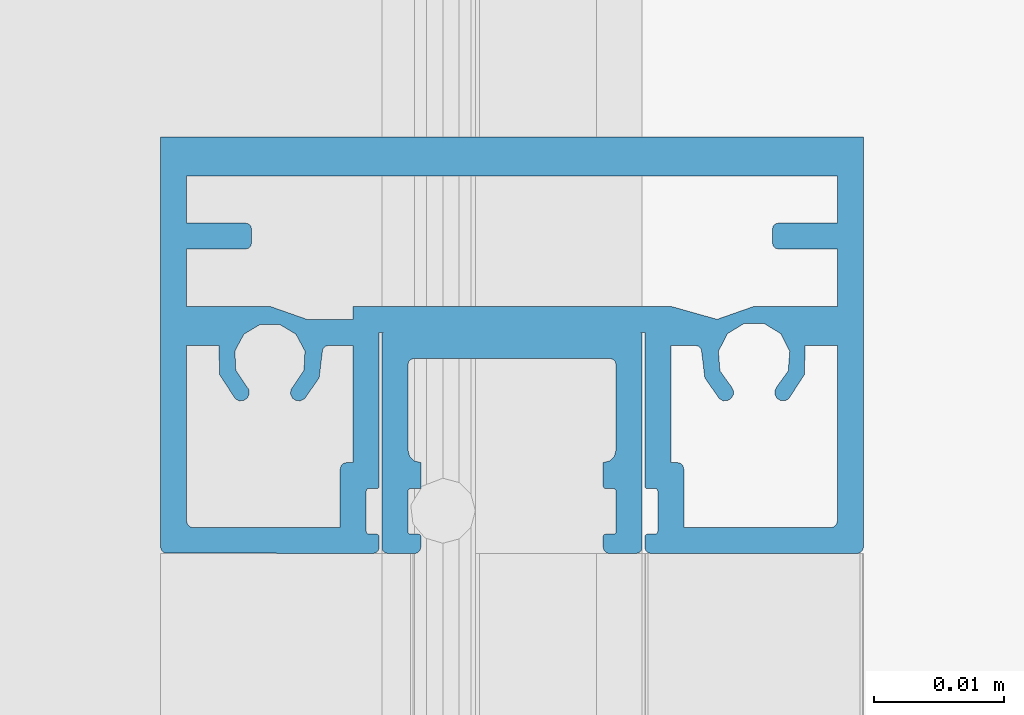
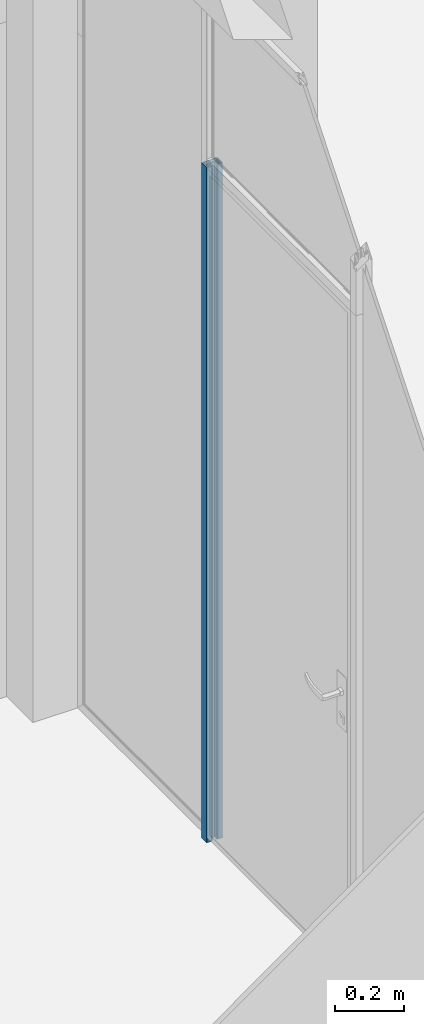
# One storey, part 89 of 387: 1 building element part, 2 elements without a shape of their own.
"""IFC2X3 building model written with IfcOpenShell, lengths in millimetres."""

from ifc_helpers import new_model, entity, si_unit, converted_unit, derived_unit, money_unit, direction, frame, origin_with_axes, place, context, subcontext, project, spatial, faceted_brep, source, transform, mapped, material, type_object, element, aggregate, save


model = new_model("IFC2X3")

# Units and contexts
model_context = context("Model", 3, precision=0.01, world=origin_with_axes(), true_north=direction((0.0, 1.0)))
body_context = subcontext(model_context, "Body", "Model", "MODEL_VIEW")
ifc_project = project(units=[si_unit("LENGTHUNIT", "METRE", prefix="MILLI"), si_unit("AREAUNIT", "SQUARE_METRE"), si_unit("VOLUMEUNIT", "CUBIC_METRE"), converted_unit("PLANEANGLEUNIT", "DEGREE", entity("IfcPlaneAngleMeasure", 0.0174532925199), si_unit("PLANEANGLEUNIT", "RADIAN"), dimensions=[0, 0, 0, 0, 0, 0, 0]), si_unit("SOLIDANGLEUNIT", "STERADIAN"), money_unit("EUR"), converted_unit("TIMEUNIT", "Year", entity("IfcTimeMeasure", 31556926.0), si_unit("TIMEUNIT", "SECOND"), dimensions=[0, 0, 1, 0, 0, 0, 0]), si_unit("MASSUNIT", "GRAM", prefix="KILO"), si_unit("THERMODYNAMICTEMPERATUREUNIT", "DEGREE_CELSIUS"), si_unit("LUMINOUSINTENSITYUNIT", "LUMEN"), si_unit("ENERGYUNIT", "JOULE", prefix="MEGA"), derived_unit("THERMALCONDUCTANCEUNIT", [(si_unit("POWERUNIT", "WATT"), 1), (si_unit("LENGTHUNIT", "METRE"), -1), (si_unit("THERMODYNAMICTEMPERATUREUNIT", "KELVIN"), -1)]), derived_unit("SPECIFICHEATCAPACITYUNIT", [(si_unit("ENERGYUNIT", "JOULE"), 1), (si_unit("MASSUNIT", "GRAM", prefix="KILO"), -1), (si_unit("THERMODYNAMICTEMPERATUREUNIT", "KELVIN"), -1)]), derived_unit("MASSDENSITYUNIT", [(si_unit("MASSUNIT", "GRAM", prefix="KILO"), 1), (si_unit("VOLUMEUNIT", "CUBIC_METRE"), -1)])], contexts=[model_context])

# Site, building, storey
site_placement = place(None, origin_with_axes())
site = spatial("IfcSite", under=ifc_project, at=site_placement, Name="Puškini 31, Narva", CompositionType="ELEMENT")
building_placement = place(site_placement, origin_with_axes())
building = spatial("IfcBuilding", under=site, at=building_placement, Name="Narva Riigigümnaasium", CompositionType="ELEMENT")
storey_placement = place(building_placement, frame((0.0, 0.0, 2640.0), z_axis=(0.0, 0.0, 1.0), x_axis=(1.0, 0.0, 0.0)))
storey = spatial("IfcBuildingStorey", under=building, at=storey_placement, Name="2.korrus +2.64", CompositionType="ELEMENT", Elevation=2640.0)

# Curtain wall, member, building element part
curtain_wall_type = type_object("IfcCurtainWallType", Name="Curtain Wall Type", PredefinedType="NOTDEFINED")
curtain_wall_placement = place(storey_placement, frame((28390.0000001, 180299.973357, -0.00013048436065), z_axis=(0.0, 0.0, 1.0), x_axis=(1.0, 0.0, 0.0)))
curtain_wall = element("IfcCurtainWall", 1, at=curtain_wall_placement, inside=storey, type_object=curtain_wall_type, Name="G-SKLF-17")
member_type = type_object("IfcMemberType", Name="32 x 17", PredefinedType="MULLION")
member_placement = place(curtain_wall_placement, frame((0.0, 450.0, 0.0), z_axis=(0.0, 0.0, 1.0), x_axis=(0.0, 1.0, 0.0)))
member = element("IfcMember", 2, at=member_placement, type_object=member_type, Name="G-SKLF-43-raam", ObjectType="MULLION")
aggregate(curtain_wall, [member])
ifc_material = material(Name="ET-04_Alumiinium")
shared_shape = source(origin_with_axes(), body_context, "Body", "Brep", [
    faceted_brep([(-31.933012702, 26.75, 0.0), (-32.0, 10.7, 0.0), (-32.0, 10.7, 2400.00000922), (-31.933012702, 26.75, 2400.00000922), (-31.7500000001, 26.9330127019, 0.0), (-31.5, 27.0, 0.0), (0.0, 27.0, 0.0), (0.0, -27.0, 0.0), (-31.5, -27.0, 0.0), (-31.75, -26.9330127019, 0.0), (-31.9330127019, -26.75, 0.0), (-32.0, -26.5, 0.0), (-32.0, -10.7, 0.0), (-31.9330127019, -10.45, 0.0), (-31.75, -10.2669872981, 0.0), (-31.5, -10.2, 0.0), (-30.7, -10.2, 0.0), (-30.6, -10.2267949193, 0.0), (-30.5267949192, -10.3, 0.0), (-30.5, -10.4, 0.0), (-30.5, -11.0, 0.0), (-30.4732050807, -11.1, 0.0), (-30.4, -11.1732050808, 0.0), (-30.3, -11.2, 0.0), (-27.2, -11.2, 0.0), (-27.1, -11.1732050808, 0.0), (-27.0267949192, -11.1, 0.0), (-27.0, -11.0, 0.0), (-27.0, -10.4000000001, 0.0), (-26.9732050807, -10.3000000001, 0.0), (-26.8999999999, -10.2267949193, 0.0), (-26.7999999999, -10.2000000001, 0.0), (-15.0, -10.2, 0.0), (-15.0, -9.80000000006, 0.0), (-15.0, 9.79999999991, 0.0), (-15.0, 10.2, 0.0), (-26.8, 10.2, 0.0), (-26.9, 10.2267949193, 0.0), (-26.9732050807, 10.3, 0.0), (-27.0, 10.4, 0.0), (-27.0, 11.0, 0.0), (-27.0267949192, 11.1, 0.0), (-27.1, 11.1732050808, 0.0), (-27.2, 11.2, 0.0), (-30.3, 11.2, 0.0), (-30.4, 11.1732050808, 0.0), (-30.4732050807, 11.1, 0.0), (-30.5, 11.0, 0.0), (-30.5, 10.4, 0.0), (-30.5267949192, 10.3, 0.0), (-30.6, 10.2267949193, 0.0), (-30.7, 10.2, 0.0), (-31.5, 10.2, 0.0), (-31.75, 10.2669872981, 0.0), (-31.9330127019, 10.45, 0.0), (-30.0, -13.2, 0.0), (-29.9999999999, -24.5, 0.0), (-29.9330127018, -24.75, 0.0), (-29.7499999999, -24.9330127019, 0.0), (-29.4999999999, -25.0, 0.0), (-16.0, -25.0, 0.0), (-16.0, -22.5115214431, 0.0), (-18.2324976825, -22.4735254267, 0.0), (-20.1055788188, -21.2581832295, 0.0), (-20.2508755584, -20.9704117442, 0.0), (-20.2400388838, -20.6482221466, 0.0), (-20.0757343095, -20.3708639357, 0.0), (-19.7983760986, -20.2065593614, 0.0), (-19.476186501, -20.1957226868, 0.0), (-19.1884150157, -20.3410194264, 0.0), (-17.9594363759, -21.2262649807, 0.0), (-16.4491363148, -21.3404661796, 0.0), (-15.101017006, -20.6500876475, 0.0), (-14.3109559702, -19.3578602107, 0.0), (-14.3109559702, -17.8432486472, 0.0), (-15.101017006, -16.5510212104, 0.0), (-16.4491363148, -15.8606426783, 0.0), (-17.9594363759, -15.9748438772, 0.0), (-19.1884150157, -16.8600894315, 0.0), (-19.4768504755, -17.0081043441, 0.0), (-19.8009019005, -16.9984036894, 0.0), (-20.0799669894, -16.8334003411, 0.0), (-20.2446330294, -16.5541360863, 0.0), (-20.2539421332, -16.2300731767, 0.0), (-20.1055788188, -15.9418167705, 0.0), (-18.5025683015, -14.8194517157, 0.0), (-16.5604395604, -14.5796977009, 0.0), (-16.2857576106, -14.5351385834, 0.0), (-16.0774356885, -14.3506455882, 0.0), (-16.0, -14.0833640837, 0.0), (-16.0, -12.2, 0.0), (-25.0, -12.2, 0.0), (-25.0, -12.7, 0.0), (-25.0669872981, -12.95, 0.0), (-25.25, -13.1330127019, 0.0), (-25.5, -13.2, 0.0), (-30.0, 13.2, 0.0), (-25.5, 13.2, 0.0), (-25.25, 13.1330127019, 0.0), (-25.0669872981, 12.95, 0.0), (-25.0, 12.7, 0.0), (-25.0, 12.2, 0.0), (-16.0, 12.2, 0.0), (-16.0, 14.0833640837, 0.0), (-16.0774356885, 14.3506455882, 0.0), (-16.2857576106, 14.5351385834, 0.0), (-16.5604395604, 14.5796977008, 0.0), (-18.5025683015, 14.8194517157, 0.0), (-20.1055788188, 15.9418167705, 0.0), (-20.2591463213, 16.2452813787, 0.0), (-20.2384633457, 16.5847603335, 0.0), (-20.0491908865, 16.8673371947, 0.0), (-19.7431334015, 17.0156698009, 0.0), (-19.4040597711, 16.9891590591, 0.0), (-19.1247754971, 16.7950610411, 0.0), (-17.9010883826, 15.9799828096, 0.0), (-16.4324884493, 15.9094355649, 0.0), (-15.1363081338, 16.6034667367, 0.0), (-14.3808833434, 17.8648533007, 0.0), (-14.3808833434, 19.3351466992, 0.0), (-15.1363081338, 20.5965332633, 0.0), (-16.4324884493, 21.290564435, 0.0), (-17.9010883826, 21.2200171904, 0.0), (-19.1247754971, 20.4049389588, 0.0), (-19.4040367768, 20.2113893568, 0.0), (-19.7428001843, 20.185166, 0.0), (-20.0485211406, 20.3334326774, 0.0), (-20.2376817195, 20.6156853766, 0.0), (-20.2586063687, 20.9548173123, 0.0), (-20.1055788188, 21.2581832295, 0.0), (-18.2324976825, 22.4735254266, 0.0), (-16.0, 22.5115214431, 0.0), (-16.0, 25.0, 0.0), (-29.5, 25.0, 0.0), (-29.75, 24.9330127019, 0.0), (-29.9330127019, 24.75, 0.0), (-30.0, 24.5, 0.0), (-14.0, -15.7539501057, 0.0), (-13.8901098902, -16.0667028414, 0.0), (-13.0, -18.6, 0.0), (-13.0, -25.0, 0.0), (-8.59999999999, -25.0, 0.0), (-8.59999999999, -20.5, 0.0), (-8.53301270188, -20.25, 0.0), (-8.34999999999, -20.0669872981, 0.0), (-8.09999999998, -20.0, 0.0), (-7.1, -20.0000000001, 0.0), (-6.85, -20.0669872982, 0.0), (-6.66698729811, -20.25, 0.0), (-6.6, -20.5, 0.0), (-6.6, -25.0, 0.0), (-3.0, -25.0, 0.0), (-3.0, 25.0, 0.0), (-6.6, 25.0, 0.0), (-6.6, 20.5, 0.0), (-6.6669872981, 20.25, 0.0), (-6.85, 20.0669872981, 0.0), (-7.09999999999, 20.0, 0.0), (-8.09999999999, 20.0, 0.0), (-8.34999999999, 20.0669872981, 0.0), (-8.53301270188, 20.25, 0.0), (-8.59999999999, 20.5, 0.0), (-8.59999999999, 25.0, 0.0), (-13.0, 25.0, 0.0), (-13.0, 18.6, 0.0), (-13.8901098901, 16.0667028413, 0.0), (-14.0, 15.7539501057, 0.0), (-14.0, 12.2, 0.0), (-13.0, 12.2, 0.0), (-13.0, -12.2, 0.0), (-31.9330127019, 10.45, 2400.00000922), (-31.75, 10.2669872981, 2400.00000922), (-31.5, 10.2, 2400.00000922), (-30.7, 10.2, 2400.00000922), (-30.6, 10.2267949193, 2400.00000922), (-30.5267949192, 10.3, 2400.00000922), (-30.5, 10.4, 2400.00000922), (-30.5, 11.0, 2400.00000922), (-30.4732050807, 11.1, 2400.00000922), (-30.4, 11.1732050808, 2400.00000922), (-30.3, 11.2, 2400.00000922), (-27.2, 11.2, 2400.00000922), (-27.1, 11.1732050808, 2400.00000922), (-27.0267949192, 11.1, 2400.00000922), (-27.0, 11.0, 2400.00000922), (-27.0, 10.4, 2400.00000922), (-26.9732050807, 10.3, 2400.00000922), (-26.9, 10.2267949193, 2400.00000922), (-26.8, 10.2, 2400.00000922), (-15.0, 10.2, 2400.00000922), (-15.0, 9.79999999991, 2400.00000922), (-15.0, -9.80000000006, 2400.00000922), (-15.0, -10.2, 2400.00000922), (-26.7999999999, -10.2000000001, 2400.00000922), (-26.8999999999, -10.2267949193, 2400.00000922), (-26.9732050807, -10.3000000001, 2400.00000922), (-27.0, -10.4000000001, 2400.00000922), (-27.0, -11.0, 2400.00000922), (-27.0267949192, -11.1, 2400.00000922), (-27.1, -11.1732050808, 2400.00000922), (-27.2, -11.2, 2400.00000922), (-30.3, -11.2, 2400.00000922), (-30.4, -11.1732050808, 2400.00000922), (-30.4732050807, -11.1, 2400.00000922), (-30.5, -11.0, 2400.00000922), (-30.5, -10.4, 2400.00000922), (-30.5267949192, -10.3, 2400.00000922), (-30.6, -10.2267949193, 2400.00000922), (-30.7, -10.2, 2400.00000922), (-31.5, -10.2, 2400.00000922), (-31.75, -10.2669872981, 2400.00000922), (-31.9330127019, -10.45, 2400.00000922), (-32.0, -10.7, 2400.00000922), (-32.0, -26.5, 2400.00000922), (-31.9330127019, -26.75, 2400.00000922), (-31.75, -26.9330127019, 2400.00000922), (-31.5, -27.0, 2400.00000922), (0.0, -27.0, 2400.00000922), (0.0, 27.0, 2400.00000922), (-31.5, 27.0, 2400.00000922), (-31.7500000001, 26.9330127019, 2400.00000922), (-30.0, -13.2, 2400.00000922), (-25.5, -13.2, 2400.00000922), (-25.25, -13.1330127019, 2400.00000922), (-25.0669872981, -12.95, 2400.00000922), (-25.0, -12.7, 2400.00000922), (-25.0, -12.2, 2400.00000922), (-16.0, -12.2, 2400.00000922), (-16.0, -14.0833640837, 2400.00000922), (-16.0774356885, -14.3506455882, 2400.00000922), (-16.2857576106, -14.5351385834, 2400.00000922), (-16.5604395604, -14.5796977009, 2400.00000922), (-18.5025683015, -14.8194517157, 2400.00000922), (-20.1055788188, -15.9418167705, 2400.00000922), (-20.2539421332, -16.2300731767, 2400.00000922), (-20.2446330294, -16.5541360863, 2400.00000922), (-20.0799669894, -16.8334003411, 2400.00000922), (-19.8009019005, -16.9984036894, 2400.00000922), (-19.4768504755, -17.0081043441, 2400.00000922), (-19.1884150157, -16.8600894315, 2400.00000922), (-17.9594363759, -15.9748438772, 2400.00000922), (-16.4491363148, -15.8606426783, 2400.00000922), (-15.101017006, -16.5510212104, 2400.00000922), (-14.3109559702, -17.8432486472, 2400.00000922), (-14.3109559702, -19.3578602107, 2400.00000922), (-15.101017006, -20.6500876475, 2400.00000922), (-16.4491363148, -21.3404661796, 2400.00000922), (-17.9594363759, -21.2262649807, 2400.00000922), (-19.1884150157, -20.3410194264, 2400.00000922), (-19.476186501, -20.1957226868, 2400.00000922), (-19.7983760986, -20.2065593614, 2400.00000922), (-20.0757343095, -20.3708639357, 2400.00000922), (-20.2400388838, -20.6482221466, 2400.00000922), (-20.2508755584, -20.9704117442, 2400.00000922), (-20.1055788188, -21.2581832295, 2400.00000922), (-18.2324976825, -22.4735254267, 2400.00000922), (-16.0, -22.5115214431, 2400.00000922), (-16.0, -25.0, 2400.00000922), (-29.4999999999, -25.0, 2400.00000922), (-29.7499999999, -24.9330127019, 2400.00000922), (-29.9330127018, -24.75, 2400.00000922), (-29.9999999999, -24.5, 2400.00000922), (-30.0, 13.2, 2400.00000922), (-30.0, 24.5, 2400.00000922), (-29.9330127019, 24.75, 2400.00000922), (-29.75, 24.9330127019, 2400.00000922), (-29.5, 25.0, 2400.00000922), (-16.0, 25.0, 2400.00000922), (-16.0, 22.5115214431, 2400.00000922), (-18.2324976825, 22.4735254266, 2400.00000922), (-20.1055788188, 21.2581832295, 2400.00000922), (-20.2586063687, 20.9548173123, 2400.00000922), (-20.2376817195, 20.6156853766, 2400.00000922), (-20.0485211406, 20.3334326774, 2400.00000922), (-19.7428001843, 20.185166, 2400.00000922), (-19.4040367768, 20.2113893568, 2400.00000922), (-19.1247754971, 20.4049389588, 2400.00000922), (-17.9010883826, 21.2200171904, 2400.00000922), (-16.4324884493, 21.290564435, 2400.00000922), (-15.1363081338, 20.5965332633, 2400.00000922), (-14.3808833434, 19.3351466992, 2400.00000922), (-14.3808833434, 17.8648533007, 2400.00000922), (-15.1363081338, 16.6034667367, 2400.00000922), (-16.4324884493, 15.9094355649, 2400.00000922), (-17.9010883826, 15.9799828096, 2400.00000922), (-19.1247754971, 16.7950610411, 2400.00000922), (-19.4040597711, 16.9891590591, 2400.00000922), (-19.7431334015, 17.0156698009, 2400.00000922), (-20.0491908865, 16.8673371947, 2400.00000922), (-20.2384633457, 16.5847603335, 2400.00000922), (-20.2591463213, 16.2452813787, 2400.00000922), (-20.1055788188, 15.9418167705, 2400.00000922), (-18.5025683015, 14.8194517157, 2400.00000922), (-16.5604395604, 14.5796977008, 2400.00000922), (-16.2857576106, 14.5351385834, 2400.00000922), (-16.0774356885, 14.3506455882, 2400.00000922), (-16.0, 14.0833640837, 2400.00000922), (-16.0, 12.2, 2400.00000922), (-25.0, 12.2, 2400.00000922), (-25.0, 12.7, 2400.00000922), (-25.0669872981, 12.95, 2400.00000922), (-25.25, 13.1330127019, 2400.00000922), (-25.5, 13.2, 2400.00000922), (-14.0, -15.7539501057, 2400.00000922), (-13.0, -12.2, 2400.00000922), (-13.0, 12.2, 2400.00000922), (-14.0, 12.2, 2400.00000922), (-14.0, 15.7539501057, 2400.00000922), (-13.8901098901, 16.0667028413, 2400.00000922), (-13.0, 18.6, 2400.00000922), (-13.0, 25.0, 2400.00000922), (-8.59999999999, 25.0, 2400.00000922), (-8.59999999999, 20.5, 2400.00000922), (-8.53301270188, 20.25, 2400.00000922), (-8.34999999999, 20.0669872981, 2400.00000922), (-8.09999999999, 20.0, 2400.00000922), (-7.09999999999, 20.0, 2400.00000922), (-6.85, 20.0669872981, 2400.00000922), (-6.6669872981, 20.25, 2400.00000922), (-6.6, 20.5, 2400.00000922), (-6.6, 25.0, 2400.00000922), (-3.0, 25.0, 2400.00000922), (-3.0, -25.0, 2400.00000922), (-6.6, -25.0, 2400.00000922), (-6.6, -20.5, 2400.00000922), (-6.66698729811, -20.25, 2400.00000922), (-6.85, -20.0669872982, 2400.00000922), (-7.1, -20.0000000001, 2400.00000922), (-8.09999999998, -20.0, 2400.00000922), (-8.34999999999, -20.0669872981, 2400.00000922), (-8.53301270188, -20.25, 2400.00000922), (-8.59999999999, -20.5, 2400.00000922), (-8.59999999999, -25.0, 2400.00000922), (-13.0, -25.0, 2400.00000922), (-13.0, -18.6, 2400.00000922), (-13.8901098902, -16.0667028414, 2400.00000922)], [[[0, 1, 2, 3]], [[0, 4, 5, 6, 7, 8, 9, 10, 11, 12, 13, 14, 15, 16, 17, 18, 19, 20, 21, 22, 23, 24, 25, 26, 27, 28, 29, 30, 31, 32, 33, 34, 35, 36, 37, 38, 39, 40, 41, 42, 43, 44, 45, 46, 47, 48, 49, 50, 51, 52, 53, 54, 1], [55, 56, 57, 58, 59, 60, 61, 62, 63, 64, 65, 66, 67, 68, 69, 70, 71, 72, 73, 74, 75, 76, 77, 78, 79, 80, 81, 82, 83, 84, 85, 86, 87, 88, 89, 90, 91, 92, 93, 94, 95], [96, 97, 98, 99, 100, 101, 102, 103, 104, 105, 106, 107, 108, 109, 110, 111, 112, 113, 114, 115, 116, 117, 118, 119, 120, 121, 122, 123, 124, 125, 126, 127, 128, 129, 130, 131, 132, 133, 134, 135, 136], [137, 138, 139, 140, 141, 142, 143, 144, 145, 146, 147, 148, 149, 150, 151, 152, 153, 154, 155, 156, 157, 158, 159, 160, 161, 162, 163, 164, 165, 166, 167, 168, 169]], [[1, 54, 170, 2]], [[3, 2, 170, 171, 172, 173, 174, 175, 176, 177, 178, 179, 180, 181, 182, 183, 184, 185, 186, 187, 188, 189, 190, 191, 192, 193, 194, 195, 196, 197, 198, 199, 200, 201, 202, 203, 204, 205, 206, 207, 208, 209, 210, 211, 212, 213, 214, 215, 216, 217, 218, 219, 220], [221, 222, 223, 224, 225, 226, 227, 228, 229, 230, 231, 232, 233, 234, 235, 236, 237, 238, 239, 240, 241, 242, 243, 244, 245, 246, 247, 248, 249, 250, 251, 252, 253, 254, 255, 256, 257, 258, 259, 260, 261], [262, 263, 264, 265, 266, 267, 268, 269, 270, 271, 272, 273, 274, 275, 276, 277, 278, 279, 280, 281, 282, 283, 284, 285, 286, 287, 288, 289, 290, 291, 292, 293, 294, 295, 296, 297, 298, 299, 300, 301, 302], [303, 304, 305, 306, 307, 308, 309, 310, 311, 312, 313, 314, 315, 316, 317, 318, 319, 320, 321, 322, 323, 324, 325, 326, 327, 328, 329, 330, 331, 332, 333, 334, 335]], [[4, 0, 3, 220]], [[5, 4, 220, 219]], [[6, 5, 219, 218]], [[7, 6, 218, 217]], [[8, 7, 217, 216]], [[9, 8, 216, 215]], [[10, 9, 215, 214]], [[11, 10, 214, 213]], [[12, 11, 213, 212]], [[13, 12, 212, 211]], [[14, 13, 211, 210]], [[15, 14, 210, 209]], [[16, 15, 209, 208]], [[17, 16, 208, 207]], [[18, 17, 207, 206]], [[19, 18, 206, 205]], [[20, 19, 205, 204]], [[21, 20, 204, 203]], [[22, 21, 203, 202]], [[23, 22, 202, 201]], [[24, 23, 201, 200]], [[25, 24, 200, 199]], [[26, 25, 199, 198]], [[27, 26, 198, 197]], [[28, 27, 197, 196]], [[29, 28, 196, 195]], [[30, 29, 195, 194]], [[31, 30, 194, 193]], [[32, 31, 193, 192]], [[33, 32, 192, 191]], [[34, 33, 191, 190]], [[35, 34, 190, 189]], [[36, 35, 189, 188]], [[37, 36, 188, 187]], [[38, 37, 187, 186]], [[39, 38, 186, 185]], [[40, 39, 185, 184]], [[41, 40, 184, 183]], [[42, 41, 183, 182]], [[43, 42, 182, 181]], [[44, 43, 181, 180]], [[45, 44, 180, 179]], [[46, 45, 179, 178]], [[47, 46, 178, 177]], [[48, 47, 177, 176]], [[49, 48, 176, 175]], [[50, 49, 175, 174]], [[51, 50, 174, 173]], [[52, 51, 173, 172]], [[53, 52, 172, 171]], [[54, 53, 171, 170]], [[56, 55, 221, 261]], [[57, 56, 261, 260]], [[58, 57, 260, 259]], [[59, 58, 259, 258]], [[60, 59, 258, 257]], [[61, 60, 257, 256]], [[62, 61, 256, 255]], [[63, 62, 255, 254]], [[64, 63, 254, 253]], [[65, 64, 253, 252]], [[66, 65, 252, 251]], [[67, 66, 251, 250]], [[68, 67, 250, 249]], [[69, 68, 249, 248]], [[70, 69, 248, 247]], [[71, 70, 247, 246]], [[72, 71, 246, 245]], [[73, 72, 245, 244]], [[74, 73, 244, 243]], [[75, 74, 243, 242]], [[76, 75, 242, 241]], [[77, 76, 241, 240]], [[78, 77, 240, 239]], [[79, 78, 239, 238]], [[80, 79, 238, 237]], [[81, 80, 237, 236]], [[82, 81, 236, 235]], [[83, 82, 235, 234]], [[84, 83, 234, 233]], [[85, 84, 233, 232]], [[86, 85, 232, 231]], [[87, 86, 231, 230]], [[88, 87, 230, 229]], [[89, 88, 229, 228]], [[90, 89, 228, 227]], [[91, 90, 227, 226]], [[92, 91, 226, 225]], [[93, 92, 225, 224]], [[94, 93, 224, 223]], [[95, 94, 223, 222]], [[55, 95, 222, 221]], [[97, 96, 262, 302]], [[98, 97, 302, 301]], [[99, 98, 301, 300]], [[100, 99, 300, 299]], [[101, 100, 299, 298]], [[102, 101, 298, 297]], [[103, 102, 297, 296]], [[104, 103, 296, 295]], [[105, 104, 295, 294]], [[106, 105, 294, 293]], [[107, 106, 293, 292]], [[108, 107, 292, 291]], [[109, 108, 291, 290]], [[110, 109, 290, 289]], [[111, 110, 289, 288]], [[112, 111, 288, 287]], [[113, 112, 287, 286]], [[114, 113, 286, 285]], [[115, 114, 285, 284]], [[116, 115, 284, 283]], [[117, 116, 283, 282]], [[118, 117, 282, 281]], [[119, 118, 281, 280]], [[120, 119, 280, 279]], [[121, 120, 279, 278]], [[122, 121, 278, 277]], [[123, 122, 277, 276]], [[124, 123, 276, 275]], [[125, 124, 275, 274]], [[126, 125, 274, 273]], [[127, 126, 273, 272]], [[128, 127, 272, 271]], [[129, 128, 271, 270]], [[130, 129, 270, 269]], [[131, 130, 269, 268]], [[132, 131, 268, 267]], [[133, 132, 267, 266]], [[134, 133, 266, 265]], [[135, 134, 265, 264]], [[136, 135, 264, 263]], [[96, 136, 263, 262]], [[138, 137, 303, 335]], [[139, 138, 335, 334]], [[140, 139, 334, 333]], [[141, 140, 333, 332]], [[142, 141, 332, 331]], [[143, 142, 331, 330]], [[144, 143, 330, 329]], [[145, 144, 329, 328]], [[146, 145, 328, 327]], [[147, 146, 327, 326]], [[148, 147, 326, 325]], [[149, 148, 325, 324]], [[150, 149, 324, 323]], [[151, 150, 323, 322]], [[152, 151, 322, 321]], [[153, 152, 321, 320]], [[154, 153, 320, 319]], [[155, 154, 319, 318]], [[156, 155, 318, 317]], [[157, 156, 317, 316]], [[158, 157, 316, 315]], [[159, 158, 315, 314]], [[160, 159, 314, 313]], [[161, 160, 313, 312]], [[162, 161, 312, 311]], [[163, 162, 311, 310]], [[164, 163, 310, 309]], [[165, 164, 309, 308]], [[166, 165, 308, 307]], [[167, 166, 307, 306]], [[168, 167, 306, 305]], [[169, 168, 305, 304]], [[137, 169, 304, 303]]]),
    faceted_brep([(-15.0, -9.80000000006, 0.0), (-15.0267949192, 9.89999999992, 0.0), (-15.0267949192, 9.89999999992, 2400.00000922), (-15.0, -9.80000000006, 2400.00000922), (-15.0267949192, -9.90000000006, 0.0), (-15.1, -9.97320508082, 0.0), (-15.2, -10.0000000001, 0.0), (-31.5, -10.0000000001, 0.0), (-31.75, -9.93301270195, 0.0), (-31.9330127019, -9.75000000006, 0.0), (-32.0, -9.50000000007, 0.0), (-32.0, -7.50000000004, 0.0), (-31.9330127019, -7.25000000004, 0.0), (-31.75, -7.06698729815, 0.0), (-31.5, -7.00000000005, 0.0), (-30.7, -7.00000000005, 0.0), (-30.6, -7.02679491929, 0.0), (-30.5267949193, -7.10000000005, 0.0), (-30.5, -7.20000000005, 0.0), (-30.5, -7.80000000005, 0.0), (-30.4732050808, -7.90000000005, 0.0), (-30.4, -7.97320508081, 0.0), (-30.3, -8.00000000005, 0.0), (-27.2, -8.00000000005, 0.0), (-27.1, -7.97320508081, 0.0), (-27.0267949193, -7.90000000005, 0.0), (-27.0, -7.80000000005, 0.0), (-27.0, -7.20000000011, 0.0), (-26.9732050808, -7.10000000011, 0.0), (-26.9, -7.02679491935, 0.0), (-26.8, -7.0000000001, 0.0), (-25.0092559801, -6.99999999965, 0.0), (-24.8752813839, -7.49999999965, 0.0), (-24.5092559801, -7.86602540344, 0.0), (-24.0092559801, -7.99999999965, 0.0), (-17.5, -7.99999999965, 0.0), (-17.25, -7.93301270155, 0.0), (-17.0669872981, -7.74999999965, 0.0), (-17.0, -7.49999999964, 0.0), (-17.0, 7.4999999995, 0.0), (-17.0669872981, 7.74999999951, 0.0), (-17.25, 7.9330127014, 0.0), (-17.5, 7.99999999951, 0.0), (-24.0092559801, 7.99999999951, 0.0), (-24.5092559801, 7.8660254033, 0.0), (-24.8752813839, 7.49999999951, 0.0), (-25.0092559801, 6.99999999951, 0.0), (-26.8568724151, 6.99999999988, 0.0), (-27.0, 6.99999999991, 0.0), (-27.0, 7.14458302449, 0.0), (-27.0, 7.79999999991, 0.0), (-27.0267949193, 7.89999999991, 0.0), (-27.1, 7.97320508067, 0.0), (-27.2, 7.99999999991, 0.0), (-30.3, 7.99999999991, 0.0), (-30.4, 7.97320508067, 0.0), (-30.4732050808, 7.89999999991, 0.0), (-30.5, 7.7999999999, 0.0), (-30.5, 7.19999999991, 0.0), (-30.5267949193, 7.09999999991, 0.0), (-30.6, 7.02679491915, 0.0), (-30.7, 6.99999999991, 0.0), (-31.5, 6.99999999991, 0.0), (-31.75, 7.06698729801, 0.0), (-31.9330127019, 7.24999999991, 0.0), (-32.0, 7.49999999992, 0.0), (-32.0, 9.49999999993, 0.0), (-31.9330127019, 9.74999999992, 0.0), (-31.75, 9.93301270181, 0.0), (-31.5, 9.99999999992, 0.0), (-15.2, 9.99999999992, 0.0), (-15.1, 9.97320508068, 0.0), (-15.1, 9.97320508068, 2400.00000922), (-15.2, 9.99999999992, 2400.00000922), (-31.5, 9.99999999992, 2400.00000922), (-31.75, 9.93301270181, 2400.00000922), (-31.9330127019, 9.74999999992, 2400.00000922), (-32.0, 9.49999999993, 2400.00000922), (-32.0, 7.49999999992, 2400.00000922), (-31.9330127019, 7.24999999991, 2400.00000922), (-31.75, 7.06698729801, 2400.00000922), (-31.5, 6.99999999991, 2400.00000922), (-30.7, 6.99999999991, 2400.00000922), (-30.6, 7.02679491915, 2400.00000922), (-30.5267949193, 7.09999999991, 2400.00000922), (-30.5, 7.19999999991, 2400.00000922), (-30.5, 7.7999999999, 2400.00000922), (-30.4732050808, 7.89999999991, 2400.00000922), (-30.4, 7.97320508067, 2400.00000922), (-30.3, 7.99999999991, 2400.00000922), (-27.2, 7.99999999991, 2400.00000922), (-27.1, 7.97320508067, 2400.00000922), (-27.0267949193, 7.89999999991, 2400.00000922), (-27.0, 7.79999999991, 2400.00000922), (-27.0, 7.14458302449, 2400.00000922), (-27.0, 6.99999999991, 2400.00000922), (-26.8568724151, 6.99999999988, 2400.00000922), (-25.0092559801, 6.99999999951, 2400.00000922), (-24.8752813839, 7.49999999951, 2400.00000922), (-24.5092559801, 7.8660254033, 2400.00000922), (-24.0092559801, 7.99999999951, 2400.00000922), (-17.5, 7.99999999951, 2400.00000922), (-17.25, 7.9330127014, 2400.00000922), (-17.0669872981, 7.74999999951, 2400.00000922), (-17.0, 7.4999999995, 2400.00000922), (-17.0, -7.49999999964, 2400.00000922), (-17.0669872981, -7.74999999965, 2400.00000922), (-17.25, -7.93301270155, 2400.00000922), (-17.5, -7.99999999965, 2400.00000922), (-24.0092559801, -7.99999999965, 2400.00000922), (-24.5092559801, -7.86602540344, 2400.00000922), (-24.8752813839, -7.49999999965, 2400.00000922), (-25.0092559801, -6.99999999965, 2400.00000922), (-26.8, -7.0000000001, 2400.00000922), (-26.9, -7.02679491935, 2400.00000922), (-26.9732050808, -7.10000000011, 2400.00000922), (-27.0, -7.20000000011, 2400.00000922), (-27.0, -7.80000000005, 2400.00000922), (-27.0267949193, -7.90000000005, 2400.00000922), (-27.1, -7.97320508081, 2400.00000922), (-27.2, -8.00000000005, 2400.00000922), (-30.3, -8.00000000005, 2400.00000922), (-30.4, -7.97320508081, 2400.00000922), (-30.4732050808, -7.90000000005, 2400.00000922), (-30.5, -7.80000000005, 2400.00000922), (-30.5, -7.20000000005, 2400.00000922), (-30.5267949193, -7.10000000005, 2400.00000922), (-30.6, -7.02679491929, 2400.00000922), (-30.7, -7.00000000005, 2400.00000922), (-31.5, -7.00000000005, 2400.00000922), (-31.75, -7.06698729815, 2400.00000922), (-31.9330127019, -7.25000000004, 2400.00000922), (-32.0, -7.50000000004, 2400.00000922), (-32.0, -9.50000000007, 2400.00000922), (-31.9330127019, -9.75000000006, 2400.00000922), (-31.75, -9.93301270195, 2400.00000922), (-31.5, -10.0000000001, 2400.00000922), (-15.2, -10.0000000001, 2400.00000922), (-15.1, -9.97320508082, 2400.00000922), (-15.0267949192, -9.90000000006, 2400.00000922)], [[[0, 1, 2, 3]], [[0, 4, 5, 6, 7, 8, 9, 10, 11, 12, 13, 14, 15, 16, 17, 18, 19, 20, 21, 22, 23, 24, 25, 26, 27, 28, 29, 30, 31, 32, 33, 34, 35, 36, 37, 38, 39, 40, 41, 42, 43, 44, 45, 46, 47, 48, 49, 50, 51, 52, 53, 54, 55, 56, 57, 58, 59, 60, 61, 62, 63, 64, 65, 66, 67, 68, 69, 70, 71, 1]], [[1, 71, 72, 2]], [[3, 2, 72, 73, 74, 75, 76, 77, 78, 79, 80, 81, 82, 83, 84, 85, 86, 87, 88, 89, 90, 91, 92, 93, 94, 95, 96, 97, 98, 99, 100, 101, 102, 103, 104, 105, 106, 107, 108, 109, 110, 111, 112, 113, 114, 115, 116, 117, 118, 119, 120, 121, 122, 123, 124, 125, 126, 127, 128, 129, 130, 131, 132, 133, 134, 135, 136, 137, 138, 139]], [[4, 0, 3, 139]], [[5, 4, 139, 138]], [[6, 5, 138, 137]], [[7, 6, 137, 136]], [[8, 7, 136, 135]], [[9, 8, 135, 134]], [[10, 9, 134, 133]], [[11, 10, 133, 132]], [[12, 11, 132, 131]], [[13, 12, 131, 130]], [[14, 13, 130, 129]], [[15, 14, 129, 128]], [[16, 15, 128, 127]], [[17, 16, 127, 126]], [[18, 17, 126, 125]], [[19, 18, 125, 124]], [[20, 19, 124, 123]], [[21, 20, 123, 122]], [[22, 21, 122, 121]], [[23, 22, 121, 120]], [[24, 23, 120, 119]], [[25, 24, 119, 118]], [[26, 25, 118, 117]], [[27, 26, 117, 116]], [[28, 27, 116, 115]], [[29, 28, 115, 114]], [[30, 29, 114, 113]], [[31, 30, 113, 112]], [[32, 31, 112, 111]], [[33, 32, 111, 110]], [[34, 33, 110, 109]], [[35, 34, 109, 108]], [[36, 35, 108, 107]], [[37, 36, 107, 106]], [[38, 37, 106, 105]], [[39, 38, 105, 104]], [[40, 39, 104, 103]], [[41, 40, 103, 102]], [[42, 41, 102, 101]], [[43, 42, 101, 100]], [[44, 43, 100, 99]], [[45, 44, 99, 98]], [[46, 45, 98, 97]], [[47, 46, 97, 96]], [[48, 47, 96, 95]], [[49, 48, 95, 94]], [[50, 49, 94, 93]], [[51, 50, 93, 92]], [[52, 51, 92, 91]], [[53, 52, 91, 90]], [[54, 53, 90, 89]], [[55, 54, 89, 88]], [[56, 55, 88, 87]], [[57, 56, 87, 86]], [[58, 57, 86, 85]], [[59, 58, 85, 84]], [[60, 59, 84, 83]], [[61, 60, 83, 82]], [[62, 61, 82, 81]], [[63, 62, 81, 80]], [[64, 63, 80, 79]], [[65, 64, 79, 78]], [[66, 65, 78, 77]], [[67, 66, 77, 76]], [[68, 67, 76, 75]], [[69, 68, 75, 74]], [[70, 69, 74, 73]], [[71, 70, 73, 72]]]),
])
building_element_part_placement = place(member_placement, origin_with_axes())
building_element_part = element("IfcBuildingElementPart", 3, at=building_element_part_placement, material=ifc_material, Name="ET-04_Alumiinium", context=body_context, shape_type="MappedRepresentation", body=[
    mapped(shared_shape, transform((0.0, 0.0, 0.0))),
])
aggregate(member, [building_element_part])

save(model, "model.ifc")
